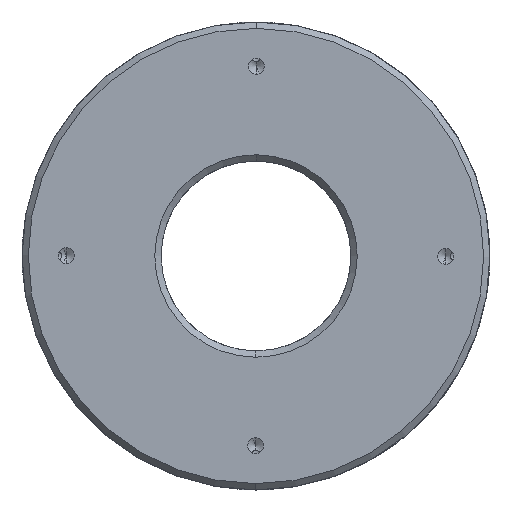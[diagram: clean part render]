
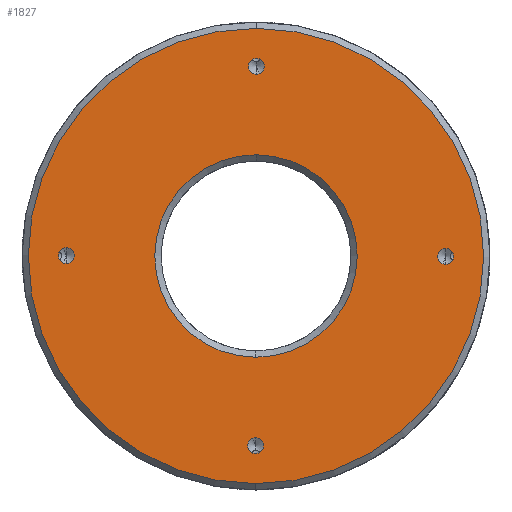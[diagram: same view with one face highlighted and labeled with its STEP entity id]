
A CAD part, front view. The second image highlights one B-rep face of the part: STEP entity #1827.
In plain terms, the highlighted planar face has unit normal (0, -1, 0).
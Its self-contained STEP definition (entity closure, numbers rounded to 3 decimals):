
#101 = EDGE_CURVE ( 'NONE', #8358, #6860, #5922, .T. ) ;
#161 = EDGE_CURVE ( 'NONE', #4114, #10754, #4634, .T. ) ;
#182 = EDGE_LOOP ( 'NONE', ( #11068, #9787 ) ) ;
#360 = CARTESIAN_POINT ( 'NONE',  ( 0., 0., -28.75 ) ) ;
#363 = CARTESIAN_POINT ( 'NONE',  ( 30., 0., 1.25 ) ) ;
#386 = CARTESIAN_POINT ( 'NONE',  ( 0., 0., 36. ) ) ;
#517 = DIRECTION ( 'NONE',  ( 0., -1., 0. ) ) ;
#541 = DIRECTION ( 'NONE',  ( 0., 0., -1. ) ) ;
#570 = FACE_BOUND ( 'NONE', #182, .T. ) ;
#720 = CIRCLE ( 'NONE', #2457, 36. ) ;
#826 = CARTESIAN_POINT ( 'NONE',  ( 0., 0., 0. ) ) ;
#983 = CIRCLE ( 'NONE', #7811, 1.25 ) ;
#1061 = VERTEX_POINT ( 'NONE', #1651 ) ;
#1531 = AXIS2_PLACEMENT_3D ( 'NONE', #12496, #5385, #11549 ) ;
#1563 = ORIENTED_EDGE ( 'NONE', *, *, #161, .F. ) ;
#1585 = EDGE_CURVE ( 'NONE', #5978, #4102, #9789, .T. ) ;
#1651 = CARTESIAN_POINT ( 'NONE',  ( -30., 0., -1.25 ) ) ;
#1671 = AXIS2_PLACEMENT_3D ( 'NONE', #4144, #11392, #12425 ) ;
#1695 = AXIS2_PLACEMENT_3D ( 'NONE', #12470, #3114, #6258 ) ;
#1827 = ADVANCED_FACE ( 'NONE', ( #6054, #4934, #570, #11257, #8660, #5899 ), #11468, .T. ) ;
#2107 = VERTEX_POINT ( 'NONE', #7961 ) ;
#2457 = AXIS2_PLACEMENT_3D ( 'NONE', #13403, #7157, #8376 ) ;
#2711 = AXIS2_PLACEMENT_3D ( 'NONE', #5654, #517, #7729 ) ;
#3045 = CARTESIAN_POINT ( 'NONE',  ( -30., 0., 0. ) ) ;
#3114 = DIRECTION ( 'NONE',  ( 0., -1., 0. ) ) ;
#3116 = EDGE_CURVE ( 'NONE', #6372, #13193, #8239, .T. ) ;
#3192 = CARTESIAN_POINT ( 'NONE',  ( 0., 0., -16. ) ) ;
#3435 = AXIS2_PLACEMENT_3D ( 'NONE', #9506, #11502, #12530 ) ;
#3571 = CIRCLE ( 'NONE', #5376, 1.25 ) ;
#3710 = CIRCLE ( 'NONE', #9432, 16. ) ;
#3806 = DIRECTION ( 'NONE',  ( 0., 0., -1. ) ) ;
#4102 = VERTEX_POINT ( 'NONE', #360 ) ;
#4114 = VERTEX_POINT ( 'NONE', #10670 ) ;
#4144 = CARTESIAN_POINT ( 'NONE',  ( 0., 0., 0. ) ) ;
#4416 = CIRCLE ( 'NONE', #1695, 1.25 ) ;
#4431 = EDGE_CURVE ( 'NONE', #8482, #11577, #3710, .T. ) ;
#4634 = CIRCLE ( 'NONE', #12161, 1.25 ) ;
#4885 = DIRECTION ( 'NONE',  ( 0., -1., 0. ) ) ;
#4925 = EDGE_CURVE ( 'NONE', #11577, #8482, #9052, .T. ) ;
#4934 = FACE_BOUND ( 'NONE', #6374, .T. ) ;
#5376 = AXIS2_PLACEMENT_3D ( 'NONE', #3045, #13352, #7148 ) ;
#5385 = DIRECTION ( 'NONE',  ( 0., -1., 0. ) ) ;
#5654 = CARTESIAN_POINT ( 'NONE',  ( -30., 0., 0. ) ) ;
#5699 = CARTESIAN_POINT ( 'NONE',  ( 0., 0., 16. ) ) ;
#5899 = FACE_BOUND ( 'NONE', #10734, .T. ) ;
#5922 = CIRCLE ( 'NONE', #1671, 36. ) ;
#5978 = VERTEX_POINT ( 'NONE', #12690 ) ;
#6054 = FACE_OUTER_BOUND ( 'NONE', #9090, .T. ) ;
#6220 = ORIENTED_EDGE ( 'NONE', *, *, #11521, .T. ) ;
#6258 = DIRECTION ( 'NONE',  ( 0., 0., -1. ) ) ;
#6270 = ORIENTED_EDGE ( 'NONE', *, *, #7165, .F. ) ;
#6372 = VERTEX_POINT ( 'NONE', #7618 ) ;
#6374 = EDGE_LOOP ( 'NONE', ( #10772, #7507 ) ) ;
#6860 = VERTEX_POINT ( 'NONE', #10548 ) ;
#6931 = DIRECTION ( 'NONE',  ( 0., 0., -1. ) ) ;
#6980 = CARTESIAN_POINT ( 'NONE',  ( 0., 0., -30. ) ) ;
#7148 = DIRECTION ( 'NONE',  ( 0., 0., -1. ) ) ;
#7157 = DIRECTION ( 'NONE',  ( 0., -1., 0. ) ) ;
#7165 = EDGE_CURVE ( 'NONE', #10754, #4114, #983, .T. ) ;
#7507 = ORIENTED_EDGE ( 'NONE', *, *, #4431, .T. ) ;
#7618 = CARTESIAN_POINT ( 'NONE',  ( 30., 0., -1.25 ) ) ;
#7729 = DIRECTION ( 'NONE',  ( 0., 0., -1. ) ) ;
#7811 = AXIS2_PLACEMENT_3D ( 'NONE', #9007, #4885, #3806 ) ;
#7961 = CARTESIAN_POINT ( 'NONE',  ( -30., 0., 1.25 ) ) ;
#7996 = DIRECTION ( 'NONE',  ( 0., -1., 0. ) ) ;
#8143 = EDGE_CURVE ( 'NONE', #4102, #5978, #4416, .T. ) ;
#8239 = CIRCLE ( 'NONE', #9588, 1.25 ) ;
#8307 = DIRECTION ( 'NONE',  ( 0., -1., 0. ) ) ;
#8358 = VERTEX_POINT ( 'NONE', #386 ) ;
#8376 = DIRECTION ( 'NONE',  ( 0., 0., -1. ) ) ;
#8482 = VERTEX_POINT ( 'NONE', #5699 ) ;
#8492 = EDGE_LOOP ( 'NONE', ( #1563, #6270 ) ) ;
#8652 = CIRCLE ( 'NONE', #2711, 1.25 ) ;
#8660 = FACE_BOUND ( 'NONE', #9790, .T. ) ;
#8723 = CARTESIAN_POINT ( 'NONE',  ( 0., 0., 31.25 ) ) ;
#8854 = CARTESIAN_POINT ( 'NONE',  ( 0., 0., 30. ) ) ;
#9007 = CARTESIAN_POINT ( 'NONE',  ( 0., 0., 30. ) ) ;
#9052 = CIRCLE ( 'NONE', #3435, 16. ) ;
#9090 = EDGE_LOOP ( 'NONE', ( #9109, #6220 ) ) ;
#9109 = ORIENTED_EDGE ( 'NONE', *, *, #101, .T. ) ;
#9432 = AXIS2_PLACEMENT_3D ( 'NONE', #826, #10130, #13237 ) ;
#9506 = CARTESIAN_POINT ( 'NONE',  ( 0., 0., 0. ) ) ;
#9588 = AXIS2_PLACEMENT_3D ( 'NONE', #11318, #8307, #12349 ) ;
#9722 = DIRECTION ( 'NONE',  ( 0., -1., 0. ) ) ;
#9787 = ORIENTED_EDGE ( 'NONE', *, *, #10821, .F. ) ;
#9789 = CIRCLE ( 'NONE', #13392, 1.25 ) ;
#9790 = EDGE_LOOP ( 'NONE', ( #11278, #10037 ) ) ;
#10037 = ORIENTED_EDGE ( 'NONE', *, *, #10243, .F. ) ;
#10130 = DIRECTION ( 'NONE',  ( 0., 1., 0. ) ) ;
#10243 = EDGE_CURVE ( 'NONE', #2107, #1061, #3571, .T. ) ;
#10548 = CARTESIAN_POINT ( 'NONE',  ( 0., 0., -36. ) ) ;
#10670 = CARTESIAN_POINT ( 'NONE',  ( 0., 0., 28.75 ) ) ;
#10734 = EDGE_LOOP ( 'NONE', ( #12723, #12034 ) ) ;
#10754 = VERTEX_POINT ( 'NONE', #8723 ) ;
#10772 = ORIENTED_EDGE ( 'NONE', *, *, #4925, .T. ) ;
#10821 = EDGE_CURVE ( 'NONE', #13193, #6372, #11825, .T. ) ;
#11068 = ORIENTED_EDGE ( 'NONE', *, *, #3116, .F. ) ;
#11126 = AXIS2_PLACEMENT_3D ( 'NONE', #13150, #7996, #12260 ) ;
#11257 = FACE_BOUND ( 'NONE', #8492, .T. ) ;
#11278 = ORIENTED_EDGE ( 'NONE', *, *, #12482, .F. ) ;
#11318 = CARTESIAN_POINT ( 'NONE',  ( 30., 0., 0. ) ) ;
#11392 = DIRECTION ( 'NONE',  ( 0., -1., 0. ) ) ;
#11468 = PLANE ( 'NONE',  #1531 ) ;
#11502 = DIRECTION ( 'NONE',  ( 0., 1., 0. ) ) ;
#11521 = EDGE_CURVE ( 'NONE', #6860, #8358, #720, .T. ) ;
#11549 = DIRECTION ( 'NONE',  ( 0., 0., -1. ) ) ;
#11577 = VERTEX_POINT ( 'NONE', #3192 ) ;
#11825 = CIRCLE ( 'NONE', #11126, 1.25 ) ;
#12034 = ORIENTED_EDGE ( 'NONE', *, *, #8143, .F. ) ;
#12161 = AXIS2_PLACEMENT_3D ( 'NONE', #8854, #9722, #541 ) ;
#12260 = DIRECTION ( 'NONE',  ( 0., 0., -1. ) ) ;
#12349 = DIRECTION ( 'NONE',  ( 0., 0., -1. ) ) ;
#12425 = DIRECTION ( 'NONE',  ( 0., 0., -1. ) ) ;
#12470 = CARTESIAN_POINT ( 'NONE',  ( 0., 0., -30. ) ) ;
#12482 = EDGE_CURVE ( 'NONE', #1061, #2107, #8652, .T. ) ;
#12496 = CARTESIAN_POINT ( 'NONE',  ( 37., 0., 0. ) ) ;
#12530 = DIRECTION ( 'NONE',  ( 0., 0., -1. ) ) ;
#12690 = CARTESIAN_POINT ( 'NONE',  ( 0., 0., -31.25 ) ) ;
#12723 = ORIENTED_EDGE ( 'NONE', *, *, #1585, .F. ) ;
#13150 = CARTESIAN_POINT ( 'NONE',  ( 30., 0., 0. ) ) ;
#13193 = VERTEX_POINT ( 'NONE', #363 ) ;
#13218 = DIRECTION ( 'NONE',  ( 0., -1., 0. ) ) ;
#13237 = DIRECTION ( 'NONE',  ( 0., 0., -1. ) ) ;
#13352 = DIRECTION ( 'NONE',  ( 0., -1., 0. ) ) ;
#13392 = AXIS2_PLACEMENT_3D ( 'NONE', #6980, #13218, #6931 ) ;
#13403 = CARTESIAN_POINT ( 'NONE',  ( 0., 0., 0. ) ) ;
